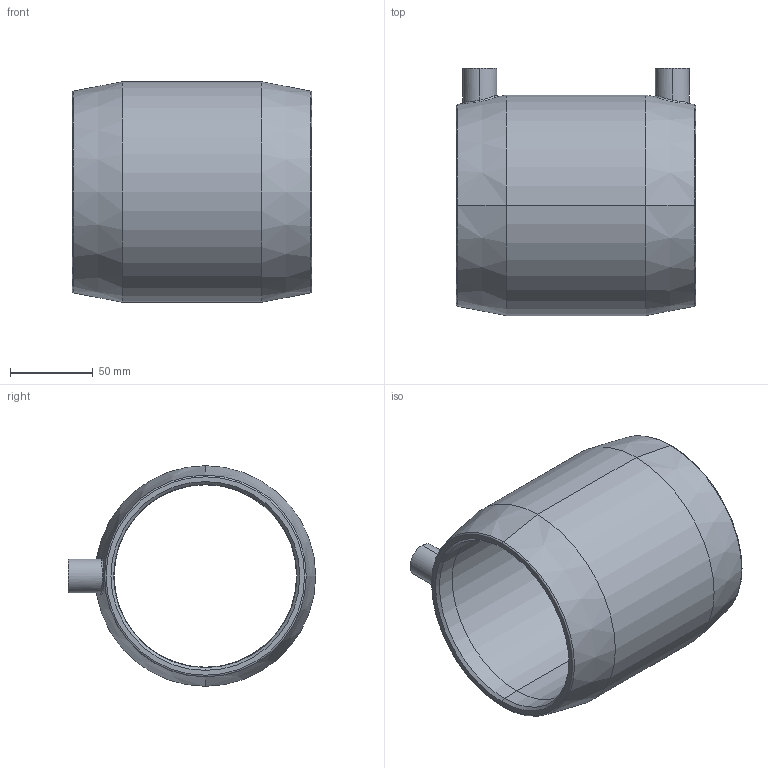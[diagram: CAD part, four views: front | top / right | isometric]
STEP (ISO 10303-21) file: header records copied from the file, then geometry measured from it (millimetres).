
FILE_DESCRIPTION (( 'STEP AP214' ), '1' );
FILE_NAME ('CBKHA110.STEP', '2018-09-19T14:08:29', ( '' ), ( '' ), 'SwSTEP 2.0', 'SolidWorks 2017', '' );
FILE_SCHEMA (( 'AUTOMOTIVE_DESIGN' ));
Length unit declared in the file: millimetre
Products named in the file (1): CBKHA110
Bounding box: 144.2 x 149.1 x 133 mm (x, y, z)
Volume: 568887.6 mm3; surface area: 116900.9 mm2
Topology: 1 solids, 1 shells, 56 faces, 116 edges, 68 vertices
Faces by surface type: cone 20, cylinder 16, torus 8, plane 8, bspline 4
Entity records: 2666 total; most frequent: CARTESIAN_POINT 1205, DIRECTION 278, ORIENTED_EDGE 232, AXIS2_PLACEMENT_3D 121, EDGE_CURVE 116, VERTEX_POINT 68, CIRCLE 68, EDGE_LOOP 64
